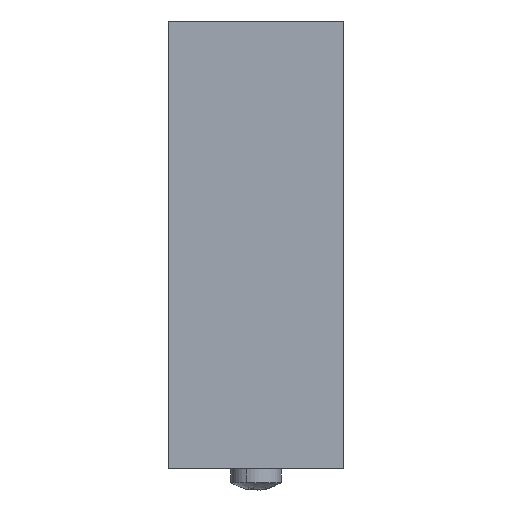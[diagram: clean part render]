
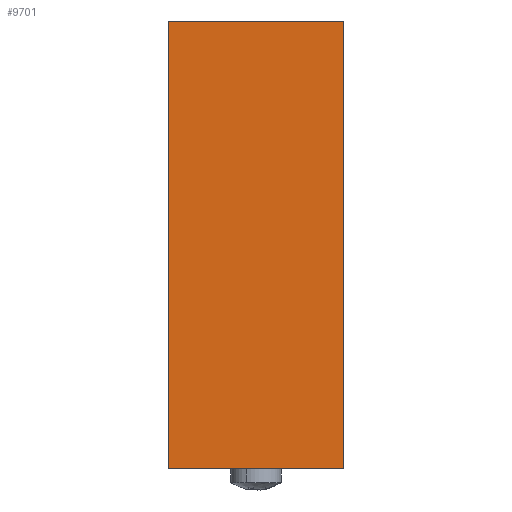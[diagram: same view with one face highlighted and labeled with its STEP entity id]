
A CAD part, left-side view. The second image highlights one B-rep face of the part: STEP entity #9701.
In plain terms, the highlighted planar face has unit normal (-1, 0, 0).
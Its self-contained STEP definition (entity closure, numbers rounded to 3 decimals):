
#9212=DIRECTION('',(0.,0.,-1.));
#9213=VECTOR('',#9212,49.5);
#9214=CARTESIAN_POINT('',(-24.75,0.,24.75));
#9215=LINE('',#9214,#9213);
#9324=DIRECTION('',(0.,0.,-1.));
#9325=VECTOR('',#9324,49.5);
#9326=CARTESIAN_POINT('',(-24.75,19.5,24.75));
#9327=LINE('',#9326,#9325);
#9328=DIRECTION('',(0.,1.,0.));
#9329=VECTOR('',#9328,19.5);
#9330=CARTESIAN_POINT('',(-24.75,0.,24.75));
#9331=LINE('',#9330,#9329);
#9336=DIRECTION('',(0.,1.,0.));
#9337=VECTOR('',#9336,19.5);
#9338=CARTESIAN_POINT('',(-24.75,0.,-24.75));
#9339=LINE('',#9338,#9337);
#9492=CARTESIAN_POINT('',(-24.75,19.5,24.75));
#9493=CARTESIAN_POINT('',(-24.75,19.5,-24.75));
#9494=VERTEX_POINT('',#9492);
#9495=VERTEX_POINT('',#9493);
#9522=CARTESIAN_POINT('',(-24.75,0.,24.75));
#9523=CARTESIAN_POINT('',(-24.75,0.,-24.75));
#9524=VERTEX_POINT('',#9522);
#9525=VERTEX_POINT('',#9523);
#9689=CARTESIAN_POINT('',(-24.75,19.5,-24.75));
#9690=DIRECTION('',(1.,0.,0.));
#9691=DIRECTION('',(0.,0.,-1.));
#9692=AXIS2_PLACEMENT_3D('',#9689,#9690,#9691);
#9693=PLANE('',#9692);
#9694=ORIENTED_EDGE('',*,*,#9603,.T.);
#9696=ORIENTED_EDGE('',*,*,#9695,.T.);
#9697=ORIENTED_EDGE('',*,*,#9670,.F.);
#9698=ORIENTED_EDGE('',*,*,#9585,.F.);
#9699=EDGE_LOOP('',(#9694,#9696,#9697,#9698));
#9700=FACE_OUTER_BOUND('',#9699,.F.);
#9701=ADVANCED_FACE('',(#9700),#9693,.F.);
#9585=EDGE_CURVE('',#9524,#9494,#9331,.T.);
#9603=EDGE_CURVE('',#9524,#9525,#9215,.T.);
#9670=EDGE_CURVE('',#9494,#9495,#9327,.T.);
#9695=EDGE_CURVE('',#9525,#9495,#9339,.T.);
